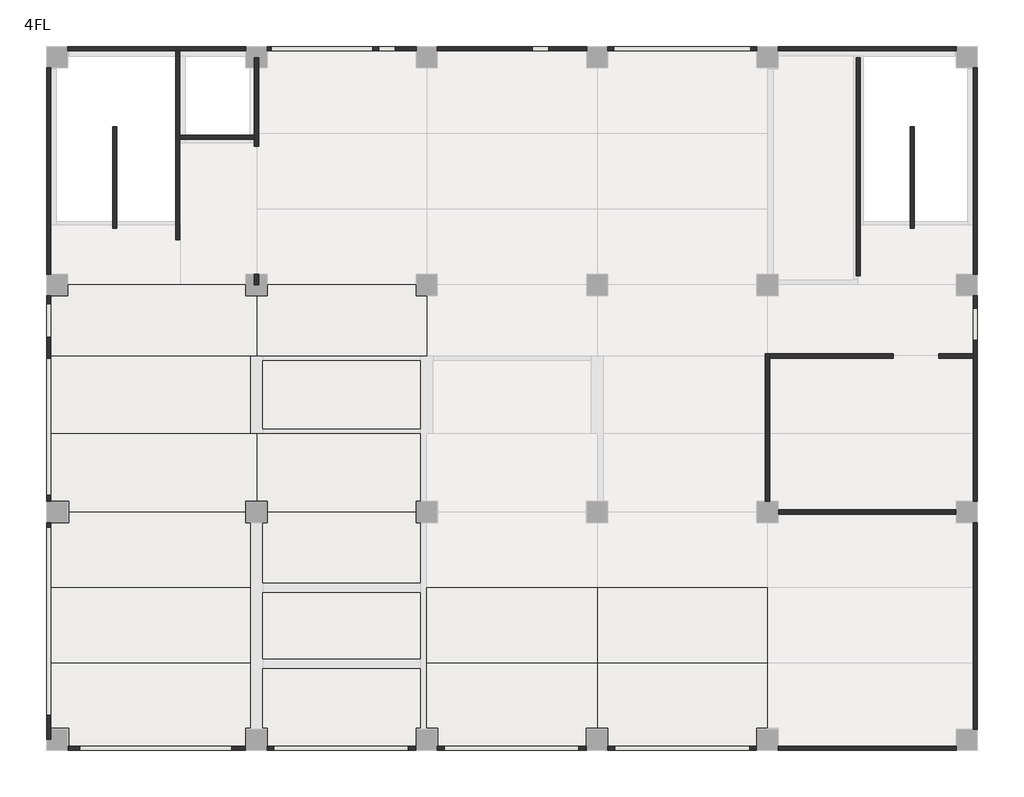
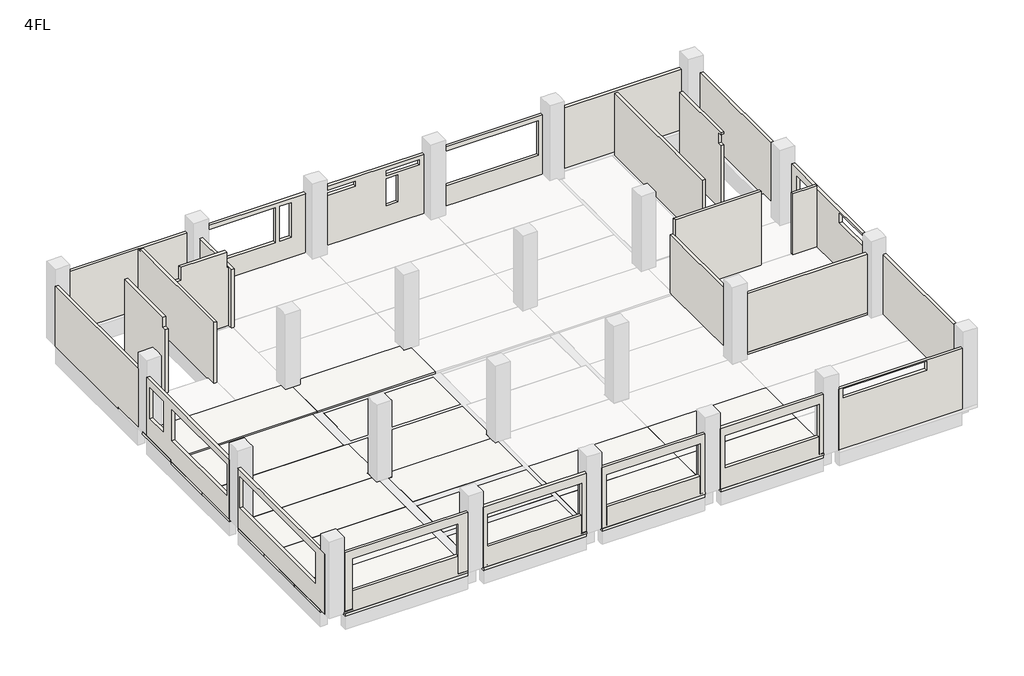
# One storey, part 1 of 4: 26 walls, 16 slabs.
"""IFC4 building model written with IfcOpenShell, lengths in millimetres."""

import ifcopenshell
import ifcopenshell.guid

model = None  # the IFC model being written
_history = None  # IfcOwnerHistory: only IFC2X3 demands one
_inside = {}  # id of a spatial element -> (the spatial element, [elements in it])
_under = {}  # id of a project, library or spatial element -> (it, [spatial elements below it])
_declared = {}  # id of a project -> (the project, [libraries it declares])
_typed = {}  # id of a type object -> (the type object, [elements of that type])
_made_of = {}  # id of a material, layer set ... -> (it, [elements and type objects made of it])


def new_model(schema):
    """Start an empty IFC model of exactly this schema.

    Asked for "IFC4X3", IfcOpenShell would pick the latest addendum, in which some entities
    have other attributes; the version numbers below select the first issue.
    IFC2X3 requires an IfcOwnerHistory on every rooted entity: one is made here for all.
    """
    global model, _history
    if schema == "IFC4X3":
        model = ifcopenshell.file(schema_version=(4, 3, 0, 0))
    else:
        model = ifcopenshell.file(schema=schema)
    _inside.clear()
    _under.clear()
    _declared.clear()
    _typed.clear()
    _made_of.clear()
    _history = None
    if model.schema == "IFC2X3":
        org = make("IfcOrganization", Name="unknown")
        user = make(
            "IfcPersonAndOrganization",
            ThePerson=make("IfcPerson", FamilyName="unknown"),
            TheOrganization=org,
        )
        app = make(
            "IfcApplication",
            ApplicationDeveloper=org,
            Version="unknown",
            ApplicationFullName="unknown",
            ApplicationIdentifier="unknown",
        )
        _history = make(
            "IfcOwnerHistory",
            OwningUser=user,
            OwningApplication=app,
            ChangeAction="ADDED",
            CreationDate=0,
        )
    return model


def make(cls, **values):
    """One entity of the class cls with the attributes given. An attribute that is None is left unset."""
    return model.create_entity(
        cls, **{name: value for name, value in values.items() if value is not None}
    )


def rooted(cls, **values):
    """An entity with a GlobalId (a new one), such as an element, a storey or a relation."""
    return make(cls, GlobalId=ifcopenshell.guid.new(), OwnerHistory=_history, **values)


def si_unit(unit_type, name, prefix=None):
    """IfcSIUnit, for example si_unit("LENGTHUNIT", "METRE", prefix="MILLI")."""
    return make("IfcSIUnit", UnitType=unit_type, Prefix=prefix, Name=name)


def assignment(units):
    """IfcUnitAssignment: the units of a project."""
    return None if units is None else make("IfcUnitAssignment", Units=units)


def point(xyz):
    """IfcCartesianPoint."""
    return None if xyz is None else make("IfcCartesianPoint", Coordinates=xyz)


def direction(xyz):
    """IfcDirection."""
    return None if xyz is None else make("IfcDirection", DirectionRatios=xyz)


def frame(location, z_axis=None, x_axis=None):
    """IfcAxis2Placement3D, a coordinate frame: its origin and axes. An axis left out is left unset."""
    return make(
        "IfcAxis2Placement3D",
        Location=point(location),
        Axis=direction(z_axis),
        RefDirection=direction(x_axis),
    )


def origin():
    """The frame at (0, 0, 0) with its axes left unset."""
    return frame((0.0, 0.0, 0.0))


def place(relative_to, where):
    """IfcLocalPlacement: puts the frame where relative to a parent placement (None: the world)."""
    return make(
        "IfcLocalPlacement", PlacementRelTo=relative_to, RelativePlacement=where
    )


def context(
    kind, dimensions, precision=None, world=None, true_north=None, identifier=None
):
    """IfcGeometricRepresentationContext, for example the 3D "Model" context."""
    return make(
        "IfcGeometricRepresentationContext",
        ContextIdentifier=identifier,
        ContextType=kind,
        CoordinateSpaceDimension=dimensions,
        Precision=precision,
        WorldCoordinateSystem=world,
        TrueNorth=true_north,
    )


def project(units=None, contexts=None):
    """IfcProject with its units and contexts."""
    return rooted(
        "IfcProject",
        Name="project",
        RepresentationContexts=contexts,
        UnitsInContext=assignment(units),
    )


def spatial(cls, under=None, at=None, **own):
    """A site, building, storey or space (cls), placed at a placement, below another one or the project."""
    s = rooted(cls, ObjectPlacement=at, **own)
    if under is not None:
        _under.setdefault(under.id(), (under, []))[1].append(s)
    return s


def polyline(points):
    """IfcPolyline through the points."""
    return make("IfcPolyline", Points=[point(p) for p in points])


def outline(outer, holes=None, kind="AREA"):
    """IfcArbitraryClosedProfileDef: a profile drawn as a closed curve; with holes, ...WithVoids."""
    if holes is None:
        return make("IfcArbitraryClosedProfileDef", ProfileType=kind, OuterCurve=outer)
    return make(
        "IfcArbitraryProfileDefWithVoids",
        ProfileType=kind,
        OuterCurve=outer,
        InnerCurves=holes,
    )


def extrude(swept, where, along, depth):
    """IfcExtrudedAreaSolid: the profile swept, set in the frame where, extruded along a direction by depth."""
    return make(
        "IfcExtrudedAreaSolid",
        SweptArea=swept,
        Position=where,
        ExtrudedDirection=direction(along),
        Depth=depth,
    )


def faces_of(points, faces, orient=None, outer=None):
    """IfcFace entities. A face is a list of loops; a loop is a list of indices into points, from 0.

    orient and outer hold one flag for each loop. By default every Orientation is true, the
    first loop of a face is its IfcFaceOuterBound and the others are IfcFaceBound.
    """
    made = []
    for i, loops in enumerate(faces):
        bounds = []
        for j, loop in enumerate(loops):
            is_outer = j == 0 if outer is None else outer[i][j]
            bounds.append(
                make(
                    "IfcFaceOuterBound" if is_outer else "IfcFaceBound",
                    Bound=make("IfcPolyLoop", Polygon=[points[k] for k in loop]),
                    Orientation=True if orient is None else orient[i][j],
                )
            )
        made.append(make("IfcFace", Bounds=bounds))
    return made


def faceted_brep(points, faces, orient=None, outer=None, voids=None):
    """IfcFacetedBrep: a solid bounded by flat faces; with voids (closed shells), ...WithVoids."""
    shared = [point(p) for p in points]
    hull = make("IfcClosedShell", CfsFaces=faces_of(shared, faces, orient, outer))
    if voids is None:
        return make("IfcFacetedBrep", Outer=hull)
    return make(
        "IfcFacetedBrepWithVoids",
        Outer=hull,
        Voids=[
            make(cls, CfsFaces=faces_of(shared, fs, o, b)) for cls, fs, o, b in voids
        ],
    )


def shape(context_of_items, identifier, shape_type, items):
    """IfcShapeRepresentation: the items that make up one representation, for example the "Body"."""
    return make(
        "IfcShapeRepresentation",
        ContextOfItems=context_of_items,
        RepresentationIdentifier=identifier,
        RepresentationType=shape_type,
        Items=items,
    )


def made_of(thing, what):
    """Note that an element or type object is made of a material, layer set ...; save() writes the relation."""
    if what is not None:
        _made_of.setdefault(what.id(), (what, []))[1].append(thing)
    return thing


def element(
    cls,
    number,
    at=None,
    inside=None,
    cuts=None,
    type_object=None,
    material=None,
    context=None,
    identifier="Body",
    shape_type=None,
    held_by="IfcProductDefinitionShape",
    body=None,
    shapes=None,
    **own,
):
    """One element of the class cls, such as IfcWall. Its Tag is "e" and its number.

    at: its placement. inside: the storey or other place that contains it. cuts: it is an
    opening in that element (IfcRelVoidsElement). A single representation is given by context,
    identifier, shape_type and body (its items); several are given by shapes. held_by: the class
    of the entity that holds the representations. save() writes the other relations.
    """
    e = rooted(cls, Tag="e%d" % number, ObjectPlacement=at, **own)
    if body is not None:
        shapes = [shape(context, identifier, shape_type, body)]
    if shapes is not None:
        e.Representation = make(held_by, Representations=shapes)
    if inside is not None:
        _inside.setdefault(inside.id(), (inside, []))[1].append(e)
    if cuts is not None:
        rooted(
            "IfcRelVoidsElement", RelatingBuildingElement=cuts, RelatedOpeningElement=e
        )
    if type_object is not None:
        _typed.setdefault(type_object.id(), (type_object, []))[1].append(e)
    return made_of(e, material)


def aggregate(whole, parts):
    """IfcRelAggregates: a whole, such as a stair, and the parts it consists of."""
    return rooted("IfcRelAggregates", RelatingObject=whole, RelatedObjects=parts)


def save(model, path):
    """Write the relations noted so far, then the file.

    IfcRelAggregates (storeys below a building ...), IfcRelContainedInSpatialStructure (elements
    in a storey), IfcRelDefinesByType, IfcRelAssociatesMaterial and IfcRelDeclares: one each for
    every whole, place, type object, material and project.
    """
    for whole, parts in _under.values():
        aggregate(whole, parts)
    for where, things in _inside.values():
        rooted(
            "IfcRelContainedInSpatialStructure",
            RelatedElements=things,
            RelatingStructure=where,
        )
    for kind, things in _typed.values():
        rooted("IfcRelDefinesByType", RelatedObjects=things, RelatingType=kind)
    for what, things in _made_of.values():
        rooted("IfcRelAssociatesMaterial", RelatedObjects=things, RelatingMaterial=what)
    for by, libraries in _declared.values():
        rooted("IfcRelDeclares", RelatingContext=by, RelatedDefinitions=libraries)
    model.write(path)


model = new_model("IFC4")

# Units and contexts
model_context = context("Model", 3, world=origin())
ifc_project = project(units=[si_unit("LENGTHUNIT", "METRE", prefix="MILLI")], contexts=[model_context])

# Site, building, storey
site = spatial("IfcSite", under=ifc_project)
building = spatial("IfcBuilding", under=site)
storey = spatial("IfcBuildingStorey", under=building, Name="4FL", Elevation=12300.0)

# Slabs
placement = place(None, origin())
element("IfcSlab", 1, ObjectType="S2", at=placement, inside=storey, context=model_context, shape_type="Brep", body=[
    faceted_brep([(-400.0, 400.0, 12050.0), (-400.0, 2664.0, 12050.0), (6775.0, 2664.0, 12050.0), (6775.0, 2485.0, 12050.0), (6775.0, 400.0, 12050.0), (6600.0, 400.0, 12050.0), (6600.0, -50.0, 12050.0), (6600.0, -400.0, 12050.0), (400.0, -400.0, 12050.0), (400.0, -50.0, 12050.0), (400.0, 400.0, 12050.0), (-50.0, 400.0, 12050.0), (-400.0, 2664.0, 12200.0), (-400.0, 400.0, 12200.0), (400.0, 400.0, 12200.0), (400.0, -400.0, 12200.0), (6600.0, -400.0, 12200.0), (6600.0, 400.0, 12200.0), (6775.0, 400.0, 12200.0), (6775.0, 2664.0, 12200.0)], [[[0, 1, 2, 3, 4, 5, 6, 7, 8, 9, 10, 11]], [[12, 13, 14, 15, 16, 17, 18, 19]], [[15, 8, 7, 16]], [[12, 1, 0, 13]], [[1, 12, 19, 2]], [[14, 10, 9, 8, 15]], [[10, 14, 13, 0, 11]], [[5, 17, 16, 7, 6]], [[17, 5, 4, 18]], [[4, 3, 2, 19, 18]]]),
])
element("IfcSlab", 2, ObjectType="S2", at=placement, inside=storey, context=model_context, shape_type="Brep", body=[
    faceted_brep([(-400.0, 2664.0, 12050.0), (-400.0, 5328.0, 12050.0), (6775.0, 5328.0, 12050.0), (6775.0, 5155.0, 12050.0), (6775.0, 2835.0, 12050.0), (6775.0, 2664.0, 12050.0), (-400.0, 5328.0, 12200.0), (-400.0, 2664.0, 12200.0), (6775.0, 2664.0, 12200.0), (6775.0, 5328.0, 12200.0)], [[[0, 1, 2, 3, 4, 5]], [[6, 7, 8, 9]], [[7, 0, 5, 8]], [[1, 0, 7, 6]], [[1, 6, 9, 2]], [[5, 4, 3, 2, 9, 8]]]),
])
element("IfcSlab", 3, ObjectType="S2", at=placement, inside=storey, context=model_context, shape_type="Brep", body=[
    faceted_brep([(-400.0, 5328.0, 12050.0), (-400.0, 7600.0, 12050.0), (-50.0, 7600.0, 12050.0), (400.0, 7600.0, 12050.0), (400.0, 8000.0, 12050.0), (6600.0, 8000.0, 12050.0), (6600.0, 7825.0, 12050.0), (6600.0, 7600.0, 12050.0), (6775.0, 7600.0, 12050.0), (6775.0, 5505.0, 12050.0), (6775.0, 5328.0, 12050.0), (-400.0, 7600.0, 12200.0), (-400.0, 5328.0, 12200.0), (6775.0, 5328.0, 12200.0), (6775.0, 7600.0, 12200.0), (6600.0, 7600.0, 12200.0), (6600.0, 8000.0, 12200.0), (400.0, 8000.0, 12200.0), (400.0, 7600.0, 12200.0)], [[[0, 1, 2, 3, 4, 5, 6, 7, 8, 9, 10]], [[11, 12, 13, 14, 15, 16, 17, 18]], [[12, 0, 10, 13]], [[0, 12, 11, 1]], [[4, 17, 16, 5]], [[3, 18, 17, 4]], [[18, 3, 2, 1, 11]], [[7, 15, 14, 8]], [[15, 7, 6, 5, 16]], [[10, 9, 8, 14, 13]]]),
])
element("IfcSlab", 4, ObjectType="S2", at=placement, inside=storey, context=model_context, shape_type="Brep", body=[
    faceted_brep([(7400.0, -400.0, 12050.0), (7400.0, -50.0, 12050.0), (7400.0, 400.0, 12050.0), (7225.0, 400.0, 12050.0), (7225.0, 2485.0, 12050.0), (12775.0, 2485.0, 12050.0), (12775.0, 400.0, 12050.0), (12600.0, 400.0, 12050.0), (12600.0, -50.0, 12050.0), (12600.0, -400.0, 12050.0), (7400.0, 400.0, 12200.0), (7400.0, -400.0, 12200.0), (12600.0, -400.0, 12200.0), (12600.0, 400.0, 12200.0), (12775.0, 400.0, 12200.0), (12775.0, 2485.0, 12200.0), (7225.0, 2485.0, 12200.0), (7225.0, 400.0, 12200.0)], [[[0, 1, 2, 3, 4, 5, 6, 7, 8, 9]], [[10, 11, 12, 13, 14, 15, 16, 17]], [[11, 0, 9, 12]], [[10, 2, 1, 0, 11]], [[2, 10, 17, 3]], [[7, 13, 12, 9, 8]], [[13, 7, 6, 14]], [[3, 17, 16, 4]], [[14, 6, 5, 15]], [[5, 4, 16, 15]]]),
])
element("IfcSlab", 5, ObjectType="S2", at=placement, inside=storey, context=model_context, shape_type="SweptSolid", body=[
    extrude(outline(polyline([(12775.0, 2835.0), (7225.0, 2835.0), (7225.0, 5155.0), (12775.0, 5155.0), (12775.0, 2835.0)])), frame((0.0, 0.0, 12050.0), z_axis=(0.0, 0.0, 1.0), x_axis=(1.0, 0.0, 0.0)), (0.0, 0.0, 1.0), 150.0),
])
element("IfcSlab", 6, ObjectType="S2", at=placement, inside=storey, context=model_context, shape_type="Brep", body=[
    faceted_brep([(7400.0, 7600.0, 12050.0), (7400.0, 8000.0, 12050.0), (12600.0, 8000.0, 12050.0), (12600.0, 7825.0, 12050.0), (12600.0, 7600.0, 12050.0), (12775.0, 7600.0, 12050.0), (12775.0, 5505.0, 12050.0), (7225.0, 5505.0, 12050.0), (7225.0, 7600.0, 12050.0), (7400.0, 8000.0, 12200.0), (7400.0, 7600.0, 12200.0), (7225.0, 7600.0, 12200.0), (7225.0, 5505.0, 12200.0), (12775.0, 5505.0, 12200.0), (12775.0, 7600.0, 12200.0), (12600.0, 7600.0, 12200.0), (12600.0, 8000.0, 12200.0)], [[[0, 1, 2, 3, 4, 5, 6, 7, 8]], [[9, 10, 11, 12, 13, 14, 15, 16]], [[1, 9, 16, 2]], [[0, 10, 9, 1]], [[10, 0, 8, 11]], [[4, 15, 14, 5]], [[15, 4, 3, 2, 16]], [[11, 8, 7, 12]], [[5, 14, 13, 6]], [[7, 6, 13, 12]]]),
])
element("IfcSlab", 7, ObjectType="S2", at=placement, inside=storey, context=model_context, shape_type="Brep", body=[
    faceted_brep([(13000.0, 2664.0, 12050.0), (19000.0, 2664.0, 12050.0), (19000.0, 400.0, 12050.0), (18600.0, 400.0, 12050.0), (18600.0, -50.0, 12050.0), (18600.0, -400.0, 12050.0), (13400.0, -400.0, 12050.0), (13400.0, -50.0, 12050.0), (13400.0, 400.0, 12050.0), (13000.0, 400.0, 12050.0), (19000.0, 2664.0, 12200.0), (13000.0, 2664.0, 12200.0), (13000.0, 400.0, 12200.0), (13400.0, 400.0, 12200.0), (13400.0, -400.0, 12200.0), (18600.0, -400.0, 12200.0), (18600.0, 400.0, 12200.0), (19000.0, 400.0, 12200.0)], [[[0, 1, 2, 3, 4, 5, 6, 7, 8, 9]], [[10, 11, 12, 13, 14, 15, 16, 17]], [[14, 6, 5, 15]], [[11, 0, 9, 12]], [[1, 0, 11, 10]], [[1, 10, 17, 2]], [[13, 8, 7, 6, 14]], [[8, 13, 12, 9]], [[3, 16, 15, 5, 4]], [[16, 3, 2, 17]]]),
])
element("IfcSlab", 8, ObjectType="S2", at=placement, inside=storey, context=model_context, shape_type="SweptSolid", body=[
    extrude(outline(polyline([(19000.0, 5328.0), (19000.0, 2664.0), (13000.0, 2664.0), (13000.0, 5328.0), (19000.0, 5328.0)])), frame((0.0, 0.0, 12050.0), z_axis=(0.0, 0.0, 1.0), x_axis=(1.0, 0.0, 0.0)), (0.0, 0.0, 1.0), 150.0),
])
element("IfcSlab", 9, ObjectType="S2", at=placement, inside=storey, context=model_context, shape_type="Brep", body=[
    faceted_brep([(19000.0, 2664.0, 12050.0), (25000.0, 2664.0, 12050.0), (25000.0, 400.0, 12050.0), (24600.0, 400.0, 12050.0), (24600.0, -50.0, 12050.0), (24600.0, -400.0, 12050.0), (19400.0, -400.0, 12050.0), (19400.0, -50.0, 12050.0), (19400.0, 400.0, 12050.0), (19000.0, 400.0, 12050.0), (25000.0, 2664.0, 12200.0), (19000.0, 2664.0, 12200.0), (19000.0, 400.0, 12200.0), (19400.0, 400.0, 12200.0), (19400.0, -400.0, 12200.0), (24600.0, -400.0, 12200.0), (24600.0, 400.0, 12200.0), (25000.0, 400.0, 12200.0)], [[[0, 1, 2, 3, 4, 5, 6, 7, 8, 9]], [[10, 11, 12, 13, 14, 15, 16, 17]], [[14, 6, 5, 15]], [[11, 0, 9, 12]], [[1, 0, 11, 10]], [[1, 10, 17, 2]], [[13, 8, 7, 6, 14]], [[8, 13, 12, 9]], [[3, 16, 15, 5, 4]], [[16, 3, 2, 17]]]),
])
element("IfcSlab", 10, ObjectType="S2", at=placement, inside=storey, context=model_context, shape_type="SweptSolid", body=[
    extrude(outline(polyline([(25000.0, 5328.0), (25000.0, 2664.0), (19000.0, 2664.0), (19000.0, 5328.0), (25000.0, 5328.0)])), frame((0.0, 0.0, 12050.0), z_axis=(0.0, 0.0, 1.0), x_axis=(1.0, 0.0, 0.0)), (0.0, 0.0, 1.0), 150.0),
])
element("IfcSlab", 11, ObjectType="S2", at=placement, inside=storey, context=model_context, shape_type="Brep", body=[
    faceted_brep([(7000.0, 13504.0, 12140.0), (6775.0, 13504.0, 12140.0), (-50.0, 13504.0, 12140.0), (-400.0, 13504.0, 12140.0), (-400.0, 15600.0, 12140.0), (-400.0, 16000.0, 12140.0), (400.0, 16000.0, 12140.0), (4319.0, 16000.0, 12140.0), (6600.0, 16000.0, 12140.0), (6600.0, 15825.0, 12140.0), (6600.0, 15600.0, 12140.0), (6775.0, 15600.0, 12140.0), (7000.0, 15600.0, 12140.0), (-400.0, 13504.0, 12290.0), (-250.0, 13504.0, 12290.0), (7000.0, 13504.0, 12290.0), (7000.0, 15625.0, 12290.0), (6625.0, 15625.0, 12290.0), (6625.0, 16000.0, 12290.0), (4319.0, 16000.0, 12290.0), (-400.0, 16000.0, 12290.0), (-400.0, 15625.0, 12290.0), (7000.0, 13504.0, 12200.0), (7000.0, 15600.0, 12200.0), (7000.0, 15625.0, 12200.0), (-400.0, 13504.0, 12200.0), (-400.0, 16000.0, 12200.0), (6625.0, 16000.0, 12200.0), (6600.0, 16000.0, 12200.0), (6600.0, 15600.0, 12200.0), (6625.0, 15625.0, 12200.0)], [[[0, 1, 2, 3, 4, 5, 6, 7, 8, 9, 10, 11, 12]], [[13, 14, 15, 16, 17, 18, 19, 20, 21]], [[15, 22, 0, 12, 23, 24, 16]], [[3, 2, 1, 0, 22, 15, 14, 13, 25]], [[5, 4, 3, 25, 13, 21, 20, 26]], [[5, 26, 20, 19, 18, 27, 28, 8, 7, 6]], [[10, 29, 23, 12, 11]], [[29, 10, 9, 8, 28]], [[23, 29, 28, 27, 30, 24]], [[30, 17, 16, 24]], [[17, 30, 27, 18]]]),
])
element("IfcSlab", 12, ObjectType="S2", at=placement, inside=storey, context=model_context, shape_type="Brep", body=[
    faceted_brep([(7400.0, 15600.0, 12140.0), (7400.0, 16000.0, 12140.0), (12600.0, 16000.0, 12140.0), (12600.0, 15825.0, 12140.0), (12600.0, 15600.0, 12140.0), (12775.0, 15600.0, 12140.0), (13000.0, 15600.0, 12140.0), (13000.0, 13675.0, 12140.0), (7225.0, 13675.0, 12140.0), (7225.0, 15600.0, 12140.0), (7000.0, 13504.0, 12290.0), (13000.0, 13504.0, 12290.0), (13000.0, 15625.0, 12290.0), (12625.0, 15625.0, 12290.0), (12625.0, 16000.0, 12290.0), (7375.0, 16000.0, 12290.0), (7375.0, 15625.0, 12290.0), (7000.0, 15625.0, 12290.0), (13000.0, 15600.0, 12200.0), (13000.0, 15625.0, 12200.0), (13000.0, 13504.0, 12200.0), (13000.0, 13675.0, 12200.0), (7000.0, 13504.0, 12200.0), (7000.0, 15625.0, 12200.0), (7000.0, 15600.0, 12200.0), (7400.0, 16000.0, 12200.0), (7375.0, 16000.0, 12200.0), (12625.0, 16000.0, 12200.0), (12600.0, 16000.0, 12200.0), (7400.0, 15600.0, 12200.0), (7225.0, 15600.0, 12200.0), (7225.0, 13675.0, 12200.0), (12775.0, 13675.0, 12200.0), (7375.0, 15625.0, 12200.0), (12600.0, 15600.0, 12200.0), (12625.0, 15625.0, 12200.0)], [[[0, 1, 2, 3, 4, 5, 6, 7, 8, 9]], [[10, 11, 12, 13, 14, 15, 16, 17]], [[6, 18, 19, 12, 11, 20, 21, 7]], [[11, 10, 22, 20]], [[10, 17, 23, 24, 22]], [[1, 25, 26, 15, 14, 27, 28, 2]], [[0, 29, 25, 1]], [[29, 0, 9, 30]], [[25, 29, 30, 31, 32, 21, 20, 22, 24, 23, 33, 26]], [[33, 16, 15, 26]], [[16, 33, 23, 17]], [[4, 34, 18, 6, 5]], [[34, 4, 3, 2, 28]], [[18, 34, 28, 27, 35, 19]], [[35, 13, 12, 19]], [[13, 35, 27, 14]], [[7, 21, 32, 31, 8]], [[31, 30, 9, 8]]]),
])
element("IfcSlab", 13, ObjectType="S2", at=placement, inside=storey, context=model_context, shape_type="Brep", body=[
    faceted_brep([(-400.0, 10752.0, 12050.0), (6775.0, 10752.0, 12050.0), (7000.0, 10752.0, 12050.0), (7000.0, 8400.0, 12050.0), (6600.0, 8400.0, 12050.0), (6600.0, 8175.0, 12050.0), (6600.0, 8000.0, 12050.0), (400.0, 8000.0, 12050.0), (400.0, 8400.0, 12050.0), (-50.0, 8400.0, 12050.0), (-400.0, 8400.0, 12050.0), (7000.0, 10752.0, 12200.0), (6775.0, 10752.0, 12200.0), (-400.0, 10752.0, 12200.0), (-400.0, 8400.0, 12200.0), (400.0, 8400.0, 12200.0), (400.0, 8000.0, 12200.0), (6600.0, 8000.0, 12200.0), (6600.0, 8400.0, 12200.0), (7000.0, 8400.0, 12200.0)], [[[0, 1, 2, 3, 4, 5, 6, 7, 8, 9, 10]], [[11, 12, 13, 14, 15, 16, 17, 18, 19]], [[16, 7, 6, 17]], [[13, 0, 10, 14]], [[2, 1, 0, 13, 12, 11]], [[2, 11, 19, 3]], [[15, 8, 7, 16]], [[8, 15, 14, 10, 9]], [[4, 18, 17, 6, 5]], [[18, 4, 3, 19]]]),
])
element("IfcSlab", 14, ObjectType="S2", at=placement, inside=storey, context=model_context, shape_type="Brep", body=[
    faceted_brep([(-400.0, 10752.0, 12050.0), (-400.0, 13504.0, 12050.0), (-50.0, 13504.0, 12050.0), (6775.0, 13504.0, 12050.0), (6775.0, 13325.0, 12050.0), (6775.0, 10925.0, 12050.0), (6775.0, 10752.0, 12050.0), (-400.0, 13504.0, 12200.0), (-400.0, 10752.0, 12200.0), (6775.0, 10752.0, 12200.0), (6775.0, 13504.0, 12200.0), (-250.0, 13504.0, 12200.0), (-400.0, 13504.0, 12140.0), (6775.0, 13504.0, 12140.0)], [[[0, 1, 2, 3, 4, 5, 6]], [[7, 8, 9, 10, 11]], [[8, 0, 6, 9]], [[1, 0, 8, 7, 12]], [[1, 12, 7, 11, 10, 13, 3, 2]], [[6, 5, 4, 3, 13, 10, 9]]]),
])
element("IfcSlab", 15, ObjectType="S2", at=placement, inside=storey, context=model_context, shape_type="Brep", body=[
    faceted_brep([(7000.0, 8400.0, 12050.0), (7000.0, 10752.0, 12050.0), (7225.0, 10752.0, 12050.0), (12775.0, 10752.0, 12050.0), (12775.0, 10575.0, 12050.0), (12775.0, 8400.0, 12050.0), (12600.0, 8400.0, 12050.0), (12600.0, 8175.0, 12050.0), (12600.0, 8000.0, 12050.0), (7400.0, 8000.0, 12050.0), (7400.0, 8400.0, 12050.0), (7000.0, 10752.0, 12200.0), (7000.0, 8400.0, 12200.0), (7400.0, 8400.0, 12200.0), (7400.0, 8000.0, 12200.0), (12600.0, 8000.0, 12200.0), (12600.0, 8400.0, 12200.0), (12775.0, 8400.0, 12200.0), (12775.0, 10752.0, 12200.0), (7225.0, 10752.0, 12200.0)], [[[0, 1, 2, 3, 4, 5, 6, 7, 8, 9, 10]], [[11, 12, 13, 14, 15, 16, 17, 18, 19]], [[14, 9, 8, 15]], [[11, 1, 0, 12]], [[1, 11, 19, 18, 3, 2]], [[13, 10, 9, 14]], [[10, 13, 12, 0]], [[6, 16, 15, 8, 7]], [[16, 6, 5, 17]], [[5, 4, 3, 18, 17]]]),
])
element("IfcSlab", 16, ObjectType="S2", at=placement, inside=storey, context=model_context, shape_type="SweptSolid", body=[
    extrude(outline(polyline([(7225.0, 13325.0), (12775.0, 13325.0), (12775.0, 10925.0), (7225.0, 10925.0), (7225.0, 13325.0)])), frame((0.0, 0.0, 12050.0), z_axis=(0.0, 0.0, 1.0), x_axis=(1.0, 0.0, 0.0)), (0.0, 0.0, 1.0), 150.0),
])

# Walls
element("IfcWall", 17, ObjectType="EW15", at=placement, inside=storey, context=model_context, shape_type="Brep", body=[
    faceted_brep([(350.0, 24400.0, 12200.0), (350.0, 24400.0, 15450.0), (6625.0, 24400.0, 15450.0), (6625.0, 24400.0, 12200.0), (6600.0, 24400.0, 12200.0), (400.0, 24400.0, 12200.0), (350.0, 24250.0, 15450.0), (350.0, 24250.0, 12200.0), (4144.0, 24250.0, 12200.0), (4294.0, 24250.0, 12200.0), (6625.0, 24250.0, 12200.0), (6625.0, 24250.0, 15450.0), (4294.0, 24250.0, 15450.0), (4144.0, 24250.0, 15450.0)], [[[0, 1, 2, 3, 4, 5]], [[6, 7, 8, 9, 10, 11, 12, 13]], [[7, 0, 5, 4, 3, 10, 9, 8]], [[1, 6, 13, 12, 11, 2]], [[1, 0, 7, 6]], [[3, 2, 11, 10]]]),
])
element("IfcWall", 18, ObjectType="EW15", at=placement, inside=storey, context=model_context, shape_type="Brep", body=[
    faceted_brep([(25375.0, 24400.0, 12200.0), (25375.0, 24400.0, 15450.0), (31650.0, 24400.0, 15450.0), (31650.0, 24400.0, 12200.0), (31600.0, 24400.0, 12200.0), (25400.0, 24400.0, 12200.0), (25375.0, 24250.0, 15450.0), (25375.0, 24250.0, 12200.0), (31650.0, 24250.0, 12200.0), (31650.0, 24250.0, 15450.0)], [[[0, 1, 2, 3, 4, 5]], [[6, 7, 8, 9]], [[7, 0, 5, 4, 3, 8]], [[1, 6, 9, 2]], [[1, 0, 7, 6]], [[3, 2, 9, 8]]]),
])
element("IfcWall", 19, ObjectType="EW15", at=placement, inside=storey, context=model_context, shape_type="Brep", body=[
    faceted_brep([(-400.0, 18100.0, 12200.0), (-400.0, 18100.0, 12290.0), (-400.0, 16375.0, 12290.0), (-400.0, 16375.0, 15400.0), (-400.0, 23650.0, 15400.0), (-400.0, 23650.0, 12200.0), (-400.0, 23600.0, 12200.0), (-250.0, 18100.0, 12290.0), (-250.0, 18100.0, 12200.0), (-250.0, 23650.0, 12200.0), (-250.0, 23650.0, 15400.0), (-250.0, 16375.0, 15400.0), (-250.0, 16375.0, 12290.0)], [[[0, 1, 2, 3, 4, 5, 6]], [[7, 8, 9, 10, 11, 12]], [[8, 0, 6, 5, 9]], [[10, 4, 3, 11]], [[1, 7, 12, 2]], [[7, 1, 0, 8]], [[5, 4, 10, 9]], [[3, 2, 12, 11]]]),
])
element("IfcWall", 20, ObjectType="EW15", at=placement, inside=storey, context=model_context, shape_type="Brep", body=[
    faceted_brep([(32250.0, 350.0, 15400.0), (32250.0, 7625.0, 15400.0), (32250.0, 7625.0, 12200.0), (32250.0, 350.0, 12200.0), (32400.0, 7625.0, 15400.0), (32400.0, 350.0, 15400.0), (32400.0, 350.0, 12200.0), (32400.0, 2664.0, 12200.0), (32400.0, 5328.0, 12200.0), (32400.0, 7625.0, 12200.0)], [[[0, 1, 2, 3]], [[4, 5, 6, 7, 8, 9]], [[5, 0, 3, 6]], [[1, 0, 5, 4]], [[1, 4, 9, 2]], [[2, 9, 8, 7, 6, 3]]]),
])
element("IfcWall", 21, ObjectType="EW15", at=placement, inside=storey, context=model_context, shape_type="Brep", body=[
    faceted_brep([(32250.0, 8375.0, 15400.0), (32250.0, 13425.0, 15400.0), (32250.0, 13575.0, 15400.0), (32250.0, 15625.0, 15400.0), (32250.0, 15625.0, 12290.0), (32250.0, 13575.0, 12290.0), (32250.0, 13425.0, 12290.0), (32250.0, 8375.0, 12290.0), (32250.0, 15177.5, 14995.0), (32250.0, 14057.5, 14995.0), (32250.0, 14057.5, 13275.0), (32250.0, 15177.5, 13275.0), (32250.0, 11440.0, 15300.0), (32250.0, 8920.0, 15300.0), (32250.0, 8920.0, 14775.0), (32250.0, 11440.0, 14775.0), (32400.0, 15625.0, 15400.0), (32400.0, 8375.0, 15400.0), (32400.0, 8375.0, 12290.0), (32400.0, 10752.0, 12290.0), (32400.0, 13504.0, 12290.0), (32400.0, 15625.0, 12290.0), (32400.0, 14057.5, 14995.0), (32400.0, 15177.5, 14995.0), (32400.0, 15177.5, 13275.0), (32400.0, 14057.5, 13275.0), (32400.0, 8920.0, 15300.0), (32400.0, 11440.0, 15300.0), (32400.0, 11440.0, 14775.0), (32400.0, 8920.0, 14775.0)], [[[0, 1, 2, 3, 4, 5, 6, 7], [8, 9, 10, 11], [12, 13, 14, 15]], [[16, 17, 18, 19, 20, 21], [22, 23, 24, 25], [26, 27, 28, 29]], [[17, 0, 7, 18]], [[3, 2, 1, 0, 17, 16]], [[3, 16, 21, 4]], [[8, 23, 22, 9]], [[10, 25, 24, 11]], [[23, 8, 11, 24]], [[9, 22, 25, 10]], [[4, 21, 20, 19, 18, 7, 6, 5]], [[12, 27, 26, 13]], [[14, 29, 28, 15]], [[27, 12, 15, 28]], [[13, 26, 29, 14]]]),
])
element("IfcWall", 22, ObjectType="EW15", at=placement, inside=storey, context=model_context, shape_type="Brep", body=[
    faceted_brep([(32250.0, 16375.0, 15400.0), (32250.0, 23650.0, 15400.0), (32250.0, 23650.0, 12200.0), (32250.0, 18100.0, 12200.0), (32250.0, 18100.0, 12290.0), (32250.0, 16375.0, 12290.0), (32400.0, 23650.0, 15400.0), (32400.0, 16375.0, 15400.0), (32400.0, 16375.0, 12290.0), (32400.0, 18100.0, 12290.0), (32400.0, 18100.0, 12200.0), (32400.0, 23600.0, 12200.0), (32400.0, 23650.0, 12200.0)], [[[0, 1, 2, 3, 4, 5]], [[6, 7, 8, 9, 10, 11, 12]], [[2, 12, 11, 10, 3]], [[7, 0, 5, 8]], [[1, 0, 7, 6]], [[2, 1, 6, 12]], [[4, 9, 8, 5]], [[9, 4, 3, 10]]]),
])
element("IfcWall", 23, ObjectType="W15", at=placement, inside=storey, context=model_context, shape_type="Brep", body=[
    faceted_brep([(6127.5, -250.0, 14995.0), (762.5, -250.0, 14995.0), (762.5, -250.0, 12325.0), (375.0, -250.0, 12325.0), (375.0, -250.0, 15450.0), (6600.0, -250.0, 15450.0), (6600.0, -250.0, 12325.0), (6127.5, -250.0, 12325.0), (762.5, -400.0, 14995.0), (6127.5, -400.0, 14995.0), (6127.5, -400.0, 12325.0), (6600.0, -400.0, 12325.0), (6600.0, -400.0, 15450.0), (375.0, -400.0, 15450.0), (375.0, -400.0, 12325.0), (762.5, -400.0, 12325.0)], [[[0, 1, 2, 3, 4, 5, 6, 7]], [[8, 9, 10, 11, 12, 13, 14, 15]], [[12, 5, 4, 13]], [[0, 9, 8, 1]], [[9, 0, 7, 10]], [[1, 8, 15, 2]], [[6, 5, 12, 11]], [[4, 3, 14, 13]], [[7, 6, 11, 10]], [[3, 2, 15, 14]]]),
    faceted_brep([(350.0, -250.0, 12200.0), (350.0, -250.0, 12300.0), (787.5, -250.0, 12300.0), (787.5, -250.0, 13275.0), (6102.5, -250.0, 13275.0), (6102.5, -250.0, 12300.0), (6625.0, -250.0, 12300.0), (6625.0, -250.0, 12200.0), (350.0, -400.0, 12300.0), (350.0, -400.0, 12200.0), (400.0, -400.0, 12200.0), (6600.0, -400.0, 12200.0), (6625.0, -400.0, 12200.0), (6625.0, -400.0, 12300.0), (6102.5, -400.0, 12300.0), (6102.5, -400.0, 13275.0), (787.5, -400.0, 13275.0), (787.5, -400.0, 12300.0)], [[[0, 1, 2, 3, 4, 5, 6, 7]], [[8, 9, 10, 11, 12, 13, 14, 15, 16, 17]], [[9, 0, 7, 12, 11, 10]], [[15, 4, 3, 16]], [[1, 0, 9, 8]], [[7, 6, 13, 12]], [[5, 14, 13, 6]], [[17, 2, 1, 8]], [[14, 5, 4, 15]], [[2, 17, 16, 3]]]),
])
element("IfcWall", 24, ObjectType="W15", at=placement, inside=storey, context=model_context, shape_type="Brep", body=[
    faceted_brep([(12625.0, -250.0, 12200.0), (7375.0, -250.0, 12200.0), (7375.0, -250.0, 15450.0), (12600.0, -250.0, 15450.0), (12600.0, -250.0, 12325.0), (12360.0, -250.0, 12325.0), (12360.0, -250.0, 14995.0), (7600.0, -250.0, 14995.0), (7600.0, -250.0, 12300.0), (7625.0, -250.0, 12300.0), (7625.0, -250.0, 13275.0), (12335.0, -250.0, 13275.0), (12335.0, -250.0, 12300.0), (12625.0, -250.0, 12300.0), (7375.0, -400.0, 12200.0), (7400.0, -400.0, 12200.0), (12600.0, -400.0, 12200.0), (12625.0, -400.0, 12200.0), (12625.0, -400.0, 12300.0), (12335.0, -400.0, 12300.0), (12335.0, -400.0, 13275.0), (7625.0, -400.0, 13275.0), (7625.0, -400.0, 12300.0), (7600.0, -400.0, 12300.0), (7600.0, -400.0, 14995.0), (12360.0, -400.0, 14995.0), (12360.0, -400.0, 12325.0), (12600.0, -400.0, 12325.0), (12600.0, -400.0, 15450.0), (7375.0, -400.0, 15450.0)], [[[0, 1, 2, 3, 4, 5, 6, 7, 8, 9, 10, 11, 12, 13]], [[14, 15, 16, 17, 18, 19, 20, 21, 22, 23, 24, 25, 26, 27, 28, 29]], [[1, 0, 17, 16, 15, 14]], [[2, 1, 14, 29]], [[2, 29, 28, 3]], [[17, 0, 13, 18]], [[6, 25, 24, 7]], [[10, 21, 20, 11]], [[25, 6, 5, 26]], [[7, 24, 23, 8]], [[4, 3, 28, 27]], [[12, 19, 18, 13]], [[19, 12, 11, 20]], [[5, 4, 27, 26]], [[9, 22, 21, 10]], [[22, 9, 8, 23]]]),
])
element("IfcWall", 25, ObjectType="W15", at=placement, inside=storey, context=model_context, shape_type="Brep", body=[
    faceted_brep([(18625.0, -250.0, 12200.0), (13375.0, -250.0, 12200.0), (13375.0, -250.0, 15450.0), (18600.0, -250.0, 15450.0), (18600.0, -250.0, 12325.0), (18360.0, -250.0, 12325.0), (18360.0, -250.0, 14995.0), (13600.0, -250.0, 14995.0), (13600.0, -250.0, 12300.0), (13625.0, -250.0, 12300.0), (13625.0, -250.0, 13275.0), (18335.0, -250.0, 13275.0), (18335.0, -250.0, 12300.0), (18625.0, -250.0, 12300.0), (13375.0, -400.0, 12200.0), (13400.0, -400.0, 12200.0), (18600.0, -400.0, 12200.0), (18625.0, -400.0, 12200.0), (18625.0, -400.0, 12300.0), (18335.0, -400.0, 12300.0), (18335.0, -400.0, 13275.0), (13625.0, -400.0, 13275.0), (13625.0, -400.0, 12300.0), (13600.0, -400.0, 12300.0), (13600.0, -400.0, 14995.0), (18360.0, -400.0, 14995.0), (18360.0, -400.0, 12325.0), (18600.0, -400.0, 12325.0), (18600.0, -400.0, 15450.0), (13375.0, -400.0, 15450.0)], [[[0, 1, 2, 3, 4, 5, 6, 7, 8, 9, 10, 11, 12, 13]], [[14, 15, 16, 17, 18, 19, 20, 21, 22, 23, 24, 25, 26, 27, 28, 29]], [[1, 0, 17, 16, 15, 14]], [[2, 1, 14, 29]], [[2, 29, 28, 3]], [[17, 0, 13, 18]], [[6, 25, 24, 7]], [[20, 11, 10, 21]], [[25, 6, 5, 26]], [[7, 24, 23, 8]], [[4, 3, 28, 27]], [[12, 19, 18, 13]], [[19, 12, 11, 20]], [[5, 4, 27, 26]], [[9, 22, 21, 10]], [[22, 9, 8, 23]]]),
])
element("IfcWall", 26, ObjectType="W15", at=placement, inside=storey, context=model_context, shape_type="Brep", body=[
    faceted_brep([(24625.0, -250.0, 12200.0), (19375.0, -250.0, 12200.0), (19375.0, -250.0, 15450.0), (24600.0, -250.0, 15450.0), (24600.0, -250.0, 12325.0), (24380.0, -250.0, 12325.0), (24380.0, -250.0, 14995.0), (19620.0, -250.0, 14995.0), (19620.0, -250.0, 12300.0), (19645.0, -250.0, 12300.0), (19645.0, -250.0, 13275.0), (24355.0, -250.0, 13275.0), (24355.0, -250.0, 12300.0), (24625.0, -250.0, 12300.0), (19375.0, -400.0, 12200.0), (19400.0, -400.0, 12200.0), (24600.0, -400.0, 12200.0), (24625.0, -400.0, 12200.0), (24625.0, -400.0, 12300.0), (24355.0, -400.0, 12300.0), (24355.0, -400.0, 13275.0), (19645.0, -400.0, 13275.0), (19645.0, -400.0, 12300.0), (19620.0, -400.0, 12300.0), (19620.0, -400.0, 14995.0), (24380.0, -400.0, 14995.0), (24380.0, -400.0, 12325.0), (24600.0, -400.0, 12325.0), (24600.0, -400.0, 15450.0), (19375.0, -400.0, 15450.0)], [[[0, 1, 2, 3, 4, 5, 6, 7, 8, 9, 10, 11, 12, 13]], [[14, 15, 16, 17, 18, 19, 20, 21, 22, 23, 24, 25, 26, 27, 28, 29]], [[1, 0, 17, 16, 15, 14]], [[2, 1, 14, 29]], [[2, 29, 28, 3]], [[17, 0, 13, 18]], [[6, 25, 24, 7]], [[20, 11, 10, 21]], [[25, 6, 5, 26]], [[7, 24, 23, 8]], [[4, 3, 28, 27]], [[12, 19, 18, 13]], [[19, 12, 11, 20]], [[5, 4, 27, 26]], [[9, 22, 21, 10]], [[22, 9, 8, 23]]]),
])
element("IfcWall", 27, ObjectType="W15", at=placement, inside=storey, context=model_context, shape_type="Brep", body=[
    faceted_brep([(31650.0, -250.0, 12200.0), (25375.0, -250.0, 12200.0), (25375.0, -250.0, 15450.0), (31650.0, -250.0, 15450.0), (29822.7, -250.0, 15410.0), (25602.7, -250.0, 15410.0), (25602.7, -250.0, 14925.0), (29822.7, -250.0, 14925.0), (25375.0, -400.0, 12200.0), (25400.0, -400.0, 12200.0), (31650.0, -400.0, 12200.0), (31650.0, -400.0, 15450.0), (25375.0, -400.0, 15450.0), (25602.7, -400.0, 15410.0), (29822.7, -400.0, 15410.0), (29822.7, -400.0, 14925.0), (25602.7, -400.0, 14925.0)], [[[0, 1, 2, 3], [4, 5, 6, 7]], [[8, 9, 10, 11, 12], [13, 14, 15, 16]], [[1, 0, 10, 9, 8]], [[2, 1, 8, 12]], [[3, 2, 12, 11]], [[0, 3, 11, 10]], [[4, 14, 13, 5]], [[6, 16, 15, 7]], [[14, 4, 7, 15]], [[5, 13, 16, 6]]]),
])
element("IfcWall", 28, ObjectType="W15", at=placement, inside=storey, context=model_context, shape_type="SweptSolid", body=[
    extrude(outline(polyline([(25400.0, 8075.0), (31625.0, 8075.0), (31625.0, 7925.0), (25400.0, 7925.0), (25400.0, 8075.0)])), frame((0.0, 0.0, 12325.0), z_axis=(0.0, 0.0, 1.0), x_axis=(1.0, 0.0, 0.0)), (0.0, 0.0, 1.0), 3125.0),
    extrude(outline(polyline([(25375.0, 7925.0), (25375.0, 8075.0), (31650.0, 8075.0), (31650.0, 7925.0), (25375.0, 7925.0)])), frame((0.0, 0.0, 12200.0), z_axis=(0.0, 0.0, 1.0), x_axis=(1.0, 0.0, 0.0)), (0.0, 0.0, 1.0), 100.0),
])
element("IfcWall", 29, ObjectType="W15", at=placement, inside=storey, context=model_context, shape_type="SweptSolid", body=[
    extrude(outline(polyline([(15450.0, 7375.0), (12290.0, 7375.0), (12290.0, 12625.0), (15450.0, 12625.0), (15450.0, 7375.0)]), holes=[polyline([(15220.0, 7510.0), (15220.0, 11090.0), (13365.0, 11090.0), (13365.0, 7510.0), (15220.0, 7510.0)]), polyline([(15220.0, 11310.0), (15220.0, 11890.0), (13365.0, 11890.0), (13365.0, 11310.0), (15220.0, 11310.0)])]), frame((0.0, 24250.0, 0.0), z_axis=(0.0, 1.0, 0.0), x_axis=(0.0, 0.0, 1.0)), (0.0, 0.0, 1.0), 150.0),
])
element("IfcWall", 30, ObjectType="W15", at=placement, inside=storey, context=model_context, shape_type="SweptSolid", body=[
    extrude(outline(polyline([(15450.0, 13375.0), (12290.0, 13375.0), (12290.0, 18625.0), (15450.0, 18625.0), (15450.0, 13375.0)]), holes=[polyline([(15235.0, 13460.0), (15235.0, 15140.0), (14965.0, 15140.0), (14965.0, 13460.0), (15235.0, 13460.0)]), polyline([(14820.0, 16710.0), (14820.0, 17290.0), (13365.0, 17290.0), (13365.0, 16710.0), (14820.0, 16710.0)]), polyline([(15235.0, 16700.0), (15235.0, 18380.0), (14965.0, 18380.0), (14965.0, 16700.0), (15235.0, 16700.0)])]), frame((0.0, 24250.0, 0.0), z_axis=(0.0, 1.0, 0.0), x_axis=(0.0, 0.0, 1.0)), (0.0, 0.0, 1.0), 150.0),
])
element("IfcWall", 31, ObjectType="W15", at=placement, inside=storey, context=model_context, shape_type="SweptSolid", body=[
    extrude(outline(polyline([(15450.0, 19375.0), (12290.0, 19375.0), (12290.0, 24625.0), (15450.0, 24625.0), (15450.0, 19375.0)]), holes=[polyline([(15220.0, 19590.0), (15220.0, 24410.0), (13365.0, 24410.0), (13365.0, 19590.0), (15220.0, 19590.0)])]), frame((0.0, 24250.0, 0.0), z_axis=(0.0, 1.0, 0.0), x_axis=(0.0, 0.0, 1.0)), (0.0, 0.0, 1.0), 150.0),
])
element("IfcWall", 32, ObjectType="W15", at=placement, inside=storey, context=model_context, shape_type="Brep", body=[
    faceted_brep([(-400.0, 0.0, 12200.0), (-400.0, 0.0, 15400.0), (-400.0, 350.0, 15400.0), (-400.0, 7625.0, 15400.0), (-400.0, 7625.0, 12200.0), (-400.0, 7600.0, 12200.0), (-400.0, 5328.0, 12200.0), (-400.0, 2664.0, 12200.0), (-400.0, 400.0, 12200.0), (-400.0, 7465.0, 15020.0), (-400.0, 835.0, 15020.0), (-400.0, 835.0, 13365.0), (-400.0, 7465.0, 13365.0), (-250.0, 0.0, 15400.0), (-250.0, 0.0, 12200.0), (-250.0, 350.0, 12200.0), (-250.0, 7625.0, 12200.0), (-250.0, 7625.0, 15400.0), (-250.0, 350.0, 15400.0), (-250.0, 835.0, 15020.0), (-250.0, 7465.0, 15020.0), (-250.0, 7465.0, 13365.0), (-250.0, 835.0, 13365.0)], [[[0, 1, 2, 3, 4, 5, 6, 7, 8], [9, 10, 11, 12]], [[13, 14, 15, 16, 17, 18], [19, 20, 21, 22]], [[14, 0, 8, 7, 6, 5, 4, 16, 15]], [[1, 0, 14, 13]], [[1, 13, 18, 17, 3, 2]], [[9, 20, 19, 10]], [[11, 22, 21, 12]], [[20, 9, 12, 21]], [[10, 19, 22, 11]], [[4, 3, 17, 16]]]),
])
element("IfcWall", 33, ObjectType="W15", at=placement, inside=storey, context=model_context, shape_type="Brep", body=[
    faceted_brep([(-400.0, 13504.0, 12290.0), (-400.0, 13504.0, 12200.0), (-400.0, 10752.0, 12200.0), (-400.0, 8400.0, 12200.0), (-400.0, 8375.0, 12200.0), (-400.0, 8375.0, 15400.0), (-400.0, 15625.0, 15400.0), (-400.0, 15625.0, 12290.0), (-400.0, 13410.0, 15020.0), (-400.0, 8590.0, 15020.0), (-400.0, 8590.0, 13365.0), (-400.0, 13410.0, 13365.0), (-400.0, 15345.0, 15020.0), (-400.0, 14165.0, 15020.0), (-400.0, 14165.0, 13365.0), (-400.0, 15345.0, 13365.0), (-250.0, 13504.0, 12200.0), (-250.0, 13504.0, 12290.0), (-250.0, 15625.0, 12290.0), (-250.0, 15625.0, 15400.0), (-250.0, 8375.0, 15400.0), (-250.0, 8375.0, 12200.0), (-250.0, 8590.0, 15020.0), (-250.0, 13410.0, 15020.0), (-250.0, 13410.0, 13365.0), (-250.0, 8590.0, 13365.0), (-250.0, 14165.0, 15020.0), (-250.0, 15345.0, 15020.0), (-250.0, 15345.0, 13365.0), (-250.0, 14165.0, 13365.0)], [[[0, 1, 2, 3, 4, 5, 6, 7], [8, 9, 10, 11], [12, 13, 14, 15]], [[16, 17, 18, 19, 20, 21], [22, 23, 24, 25], [26, 27, 28, 29]], [[1, 16, 21, 4, 3, 2]], [[5, 20, 19, 6]], [[8, 23, 22, 9]], [[10, 25, 24, 11]], [[23, 8, 11, 24]], [[9, 22, 25, 10]], [[12, 27, 26, 13]], [[14, 29, 28, 15]], [[27, 12, 15, 28]], [[13, 26, 29, 14]], [[17, 0, 7, 18]], [[0, 17, 16, 1]], [[5, 4, 21, 20]], [[7, 6, 19, 18]]]),
])
element("IfcWall", 34, ObjectType="W15", at=placement, inside=storey, context=model_context, shape_type="Brep", body=[
    faceted_brep([(6925.0, 16000.0, 12290.0), (6925.0, 16000.0, 15400.0), (6925.0, 16375.0, 15400.0), (6925.0, 16375.0, 12290.0), (7075.0, 16000.0, 15400.0), (7075.0, 16000.0, 12290.0), (7075.0, 16375.0, 12290.0), (7075.0, 16375.0, 15400.0)], [[[0, 1, 2, 3]], [[4, 5, 6, 7]], [[5, 0, 3, 6]], [[1, 0, 5, 4]], [[1, 4, 7, 2]], [[3, 2, 7, 6]]]),
    faceted_brep([(6925.0, 24000.0, 15400.0), (6925.0, 24000.0, 12290.0), (6925.0, 20880.0, 12290.0), (6925.0, 20880.0, 15400.0), (6925.0, 21125.0, 15400.0), (6925.0, 21275.0, 15400.0), (7075.0, 24000.0, 12290.0), (7075.0, 24000.0, 15400.0), (7075.0, 20880.0, 15400.0), (7075.0, 20880.0, 12290.0)], [[[0, 1, 2, 3, 4, 5]], [[6, 7, 8, 9]], [[1, 6, 9, 2]], [[7, 0, 5, 4, 3, 8]], [[1, 0, 7, 6]], [[3, 2, 9, 8]]]),
])
element("IfcWall", 35, ObjectType="W15", at=placement, inside=storey, context=model_context, shape_type="Brep", body=[
    faceted_brep([(24925.0, 13575.0, 15400.0), (24925.0, 13575.0, 12290.0), (24925.0, 8375.0, 12290.0), (24925.0, 8375.0, 15400.0), (25075.0, 13575.0, 12290.0), (25075.0, 13575.0, 15400.0), (25075.0, 8375.0, 15400.0), (25075.0, 8375.0, 12290.0), (25075.0, 13425.0, 12290.0)], [[[0, 1, 2, 3]], [[4, 5, 6, 7, 8]], [[1, 4, 8, 7, 2]], [[5, 0, 3, 6]], [[1, 0, 5, 4]], [[3, 2, 7, 6]]]),
])
element("IfcWall", 36, ObjectType="W15", at=placement, inside=storey, context=model_context, shape_type="Brep", body=[
    faceted_brep([(4294.0, 21125.0, 12300.0), (6925.0, 21125.0, 12300.0), (6925.0, 21125.0, 15400.0), (6825.0, 21125.0, 15400.0), (6825.0, 21125.0, 15700.0), (6825.0, 21125.0, 16240.0), (4494.0, 21125.0, 16240.0), (4494.0, 21125.0, 15700.0), (4494.0, 21125.0, 15550.0), (4294.0, 21125.0, 15550.0), (6925.0, 21275.0, 12300.0), (4294.0, 21275.0, 12300.0), (4294.0, 21275.0, 15550.0), (4494.0, 21275.0, 15550.0), (4494.0, 21275.0, 16240.0), (6825.0, 21275.0, 16240.0), (6825.0, 21275.0, 15400.0), (6925.0, 21275.0, 15400.0)], [[[0, 1, 2, 3, 4, 5, 6, 7, 8, 9]], [[10, 11, 12, 13, 14, 15, 16, 17]], [[1, 0, 11, 10]], [[1, 10, 17, 2]], [[11, 0, 9, 12]], [[3, 16, 15, 5, 4]], [[3, 2, 17, 16]], [[9, 8, 13, 12]], [[13, 8, 7, 6, 14]], [[6, 5, 15, 14]]]),
])
element("IfcWall", 37, ObjectType="W15", at=placement, inside=storey, context=model_context, shape_type="Brep", body=[
    faceted_brep([(4294.0, 17600.0, 12200.0), (4294.0, 21125.0, 12200.0), (4294.0, 21275.0, 12200.0), (4294.0, 24250.0, 12200.0), (4294.0, 24250.0, 15450.0), (4294.0, 24050.0, 15450.0), (4294.0, 24050.0, 15550.0), (4294.0, 21275.0, 15550.0), (4294.0, 21125.0, 15550.0), (4294.0, 17600.0, 15550.0), (4144.0, 24250.0, 12200.0), (4144.0, 24050.0, 12200.0), (4144.0, 17600.0, 12200.0), (4144.0, 17600.0, 15550.0), (4144.0, 24050.0, 15550.0), (4144.0, 24050.0, 15450.0), (4144.0, 24250.0, 15450.0)], [[[0, 1, 2, 3, 4, 5, 6, 7, 8, 9]], [[10, 11, 12, 13, 14, 15, 16]], [[3, 2, 1, 0, 12, 11, 10]], [[13, 9, 8, 7, 6, 14]], [[0, 9, 13, 12]], [[3, 10, 16, 4]], [[15, 5, 4, 16]], [[5, 15, 14, 6]]]),
])
element("IfcWall", 38, ObjectType="W15", at=placement, inside=storey, context=model_context, shape_type="SweptSolid", body=[
    extrude(outline(polyline([(28125.0, 16325.0), (28125.0, 24000.0), (28275.0, 24000.0), (28275.0, 16325.0), (28125.0, 16325.0)])), frame((0.0, 0.0, 12200.0), z_axis=(0.0, 0.0, 1.0), x_axis=(1.0, 0.0, 0.0)), (0.0, 0.0, 1.0), 3350.0),
])
element("IfcWall", 39, ObjectType="W15", at=placement, inside=storey, context=model_context, shape_type="Brep", body=[
    faceted_brep([(25075.0, 13575.0, 16240.0), (25175.0, 13575.0, 16240.0), (29435.0, 13575.0, 16240.0), (29435.0, 13575.0, 15550.0), (29435.0, 13575.0, 12290.0), (25075.0, 13575.0, 12290.0), (25075.0, 13575.0, 15400.0), (29435.0, 13425.0, 16240.0), (25175.0, 13425.0, 16240.0), (25075.0, 13425.0, 16240.0), (25075.0, 13425.0, 12290.0), (29435.0, 13425.0, 12290.0), (29435.0, 13425.0, 15550.0)], [[[0, 1, 2, 3, 4, 5, 6]], [[7, 8, 9, 10, 11, 12]], [[2, 1, 0, 9, 8, 7]], [[2, 7, 12, 11, 4, 3]], [[9, 0, 6, 5, 10]], [[5, 4, 11, 10]]]),
])
element("IfcWall", 40, ObjectType="W15", at=placement, inside=storey, context=model_context, shape_type="SweptSolid", body=[
    extrude(outline(polyline([(21580.0, 12300.0), (18000.0, 12300.0), (18000.0, 15700.0), (18225.0, 15700.0), (18225.0, 16240.0), (21580.0, 16240.0), (21580.0, 12300.0)])), frame((1925.0, 0.0, 0.0), z_axis=(1.0, 0.0, 0.0), x_axis=(0.0, 1.0, 0.0)), (0.0, 0.0, 1.0), 150.0),
])
element("IfcWall", 41, ObjectType="W15", at=placement, inside=storey, context=model_context, shape_type="SweptSolid", body=[
    extrude(outline(polyline([(21580.0, 12300.0), (18000.0, 12300.0), (18000.0, 15700.0), (18225.0, 15700.0), (18225.0, 16300.0), (18000.0, 16300.0), (18000.0, 16400.0), (21580.0, 16400.0), (21580.0, 12300.0)])), frame((30025.0, 0.0, 0.0), z_axis=(1.0, 0.0, 0.0), x_axis=(0.0, 1.0, 0.0)), (0.0, 0.0, 1.0), 150.0),
])
element("IfcWall", 42, ObjectType="W15", at=placement, inside=storey, context=model_context, shape_type="Brep", body=[
    faceted_brep([(32250.0, 13575.0, 12290.0), (31035.0, 13575.0, 12290.0), (31035.0, 13575.0, 15550.0), (32050.0, 13575.0, 15550.0), (32250.0, 13575.0, 15550.0), (32250.0, 13575.0, 15400.0), (32250.0, 13425.0, 12290.0), (32250.0, 13425.0, 15400.0), (32250.0, 13425.0, 15550.0), (32050.0, 13425.0, 15550.0), (31035.0, 13425.0, 15550.0), (31035.0, 13425.0, 12290.0)], [[[0, 1, 2, 3, 4, 5]], [[6, 7, 8, 9, 10, 11]], [[1, 0, 6, 11]], [[2, 1, 11, 10]], [[4, 3, 2, 10, 9, 8]], [[0, 5, 4, 8, 7, 6]]]),
])

save(model, "model.ifc")
